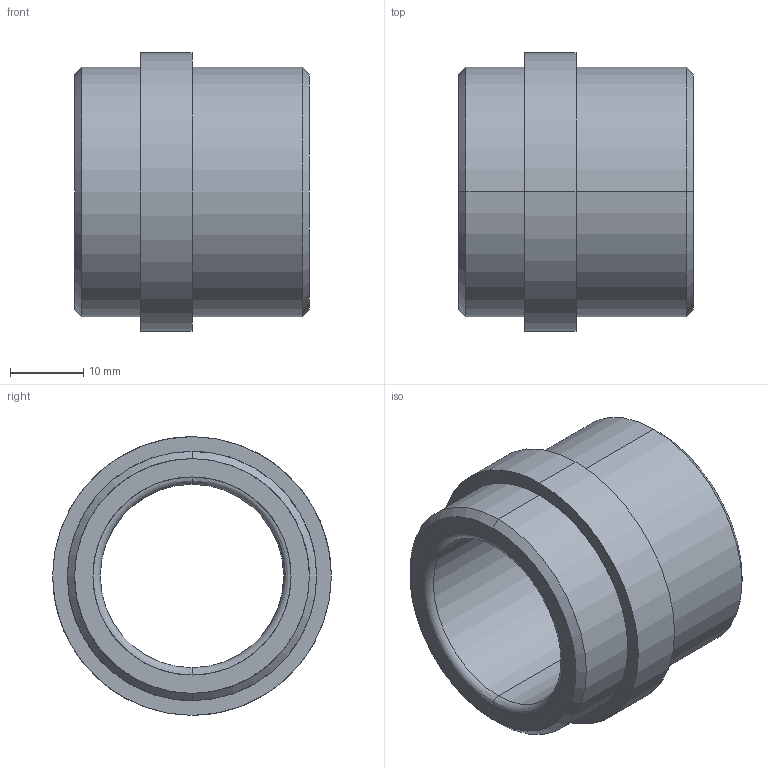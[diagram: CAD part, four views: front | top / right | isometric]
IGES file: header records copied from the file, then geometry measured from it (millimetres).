
Start section: START RECORD GO HERE.
Global section: file name: G403-25X32.igs; native system: DASSAULT SYSTEMES CATIA V5 R20 - www.3ds.com; preprocessor: CATIA Version 5 Release 20 ; author: Utente; organization: NB04-ASUS; date: 20210421.132851; units: millimetre
Bounding box: 32 x 38 x 38 mm (x, y, z)
Surface area: 7111.5 mm2 (no closed solid volume)
Topology: 0 solids, 0 shells, 20 faces, 128 edges, 128 vertices
Faces by surface type: revolution 16, plane 4
